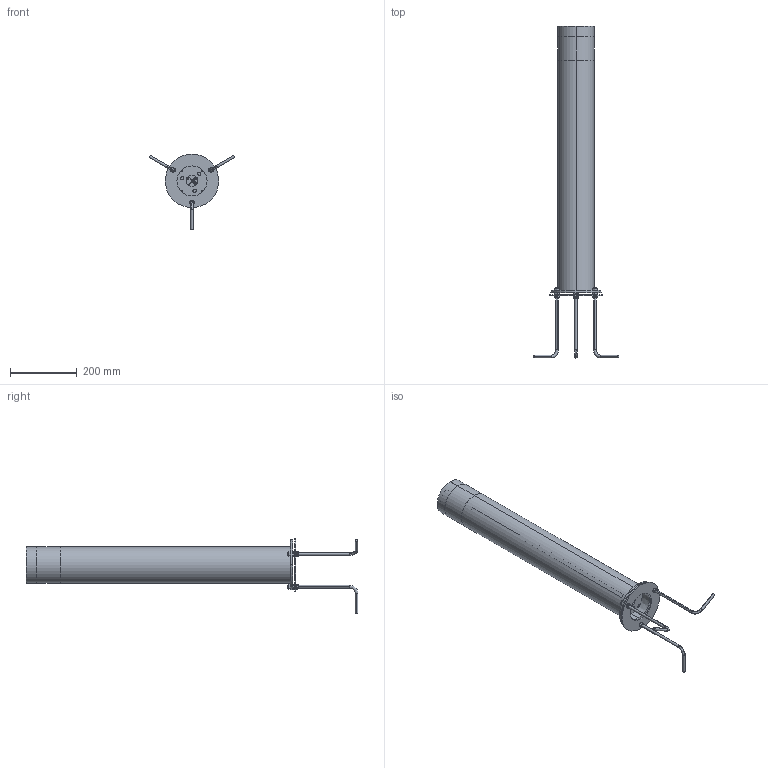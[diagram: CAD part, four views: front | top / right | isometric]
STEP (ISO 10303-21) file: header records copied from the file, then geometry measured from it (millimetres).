
FILE_DESCRIPTION((''),'2;1');
FILE_NAME('D9ADDENGTI_ASM_29_ASM','2024-09-20T',('C028'),(''),'CREO PARAMETRIC BY PTC INC, 2014190','CREO PARAMETRIC BY PTC INC, 2014190','');
FILE_SCHEMA(('CONFIG_CONTROL_DESIGN'));
Products named in the file (34): 9AD-07_300_11; 9AD-09GUDINGZUO_6; 9AB-04DUDINGZUOFANGSHUIQUAN_4; 9AB-03DUDINGZUOHOUGAI_4; PAD_1_135_2; FANGUANGSAI-1_1_135_2; FANGSHUISAI_1_135_2; PG9_ASM_1_ASM_135_ASM_2_ASM; PG9_ASM_2_ASM; 9AR-06TOUGUANGZHAODIZUO_12; 9AC-01SAIREBAN_4; PCB-00_7_5; M254_2; DIANPIAM_1; M3X501_1_6_9; M412MM_2; 2ISPINGDIAN_3; 9AD-10TOUGUANGZHAO_5; 9AD-12_6; M3_20_5_2; M4X12MM_3_1_1_2_2; HEP; ZHI_JIA_12; 0827_ASM; D9AD_ASM_11_ASM; 9AD-04_12; 9AD-01SHANGHAI_14; LI_BAN; 9AB_FA_LAN_PAN_56; 9AB-11_4__ANY_; M8LUOMU_3__ANY_; 9AB-10_5__ANY_; 9ABDIZUO_AF5_ASM_333_ASM_1_ANY__ASM; D9ADDENGTI_ASM_29_ASM
Assembly tree (70 placements, depth 5):
  D9ADDENGTI_ASM_29_ASM
    9AD-07_300_11
    D9AD_ASM_11_ASM
      9AD-09GUDINGZUO_6
      9AB-04DUDINGZUOFANGSHUIQUAN_4  x2
      9AB-03DUDINGZUOHOUGAI_4
      PG9_ASM_2_ASM
        PG9_ASM_1_ASM_135_ASM_2_ASM
          PAD_1_135_2
          FANGUANGSAI-1_1_135_2
          FANGSHUISAI_1_135_2
      9AR-06TOUGUANGZHAODIZUO_12
      9AC-01SAIREBAN_4
      PCB-00_7_5  x6
      M254_2  x12
      DIANPIAM_1  x2
      M3X501_1_6_9  x3
      M412MM_2  x4
      2ISPINGDIAN_3  x2
      9AD-10TOUGUANGZHAO_5
      9AD-12_6
      M3_20_5_2
      M4X12MM_3_1_1_2_2  x4
      0827_ASM
        HEP
        ZHI_JIA_12
    9AD-04_12
    9AD-01SHANGHAI_14
    LI_BAN
    9AB_FA_LAN_PAN_56
    9ABDIZUO_AF5_ASM_333_ASM_1_ANY__ASM
      9AB-11_4__ANY_  x3
      M8LUOMU_3__ANY_  x9
      9AB-10_5__ANY_
Bounding box: 257.75 x 995.35 x 226.5 mm (x, y, z)
Volume: 1687948.2 mm3; surface area: 972647.3 mm2
Topology: 65 solids, 65 shells, 2415 faces, 6527 edges, 4333 vertices
Faces by surface type: plane 1307, cylinder 548, cone 294, torus 176, bspline 76, sphere 14
Entity records: 64403 total; most frequent: CARTESIAN_POINT 23575, ORIENTED_EDGE 8496, DIRECTION 8320, EDGE_CURVE 4248, AXIS2_PLACEMENT_3D 2958, VERTEX_POINT 2825, VECTOR 2404, LINE 2404
